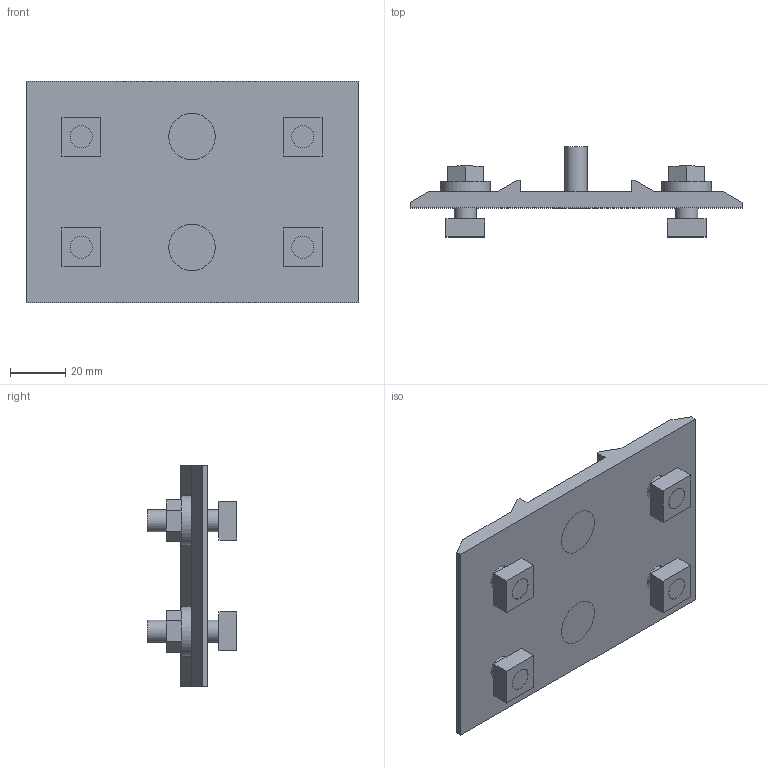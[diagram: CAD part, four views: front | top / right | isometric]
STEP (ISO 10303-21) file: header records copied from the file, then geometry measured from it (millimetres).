
FILE_DESCRIPTION((''),'2;1');
FILE_NAME('C:\Documents and Settings\古川典政\My Documents\Inventor\HP用\MasterData\BRACKET\M8\ABJF-4080-8.stp','2008-07-31T10:50:16',(''),(''),'Autodesk Inventor 2008','Autodesk Inventor 2008','');
FILE_SCHEMA(('CONFIG_CONTROL_DESIGN'));
Length unit declared in the file: millimetre
Products named in the file (12): ABJF-4080-8; ABJF-4080-81; ABJF-4080-82; ABJF-4080-83; ABJF-4080-84; ABJF-4080-85; ABJF-4080-86; ABJF-4080-87; ABJF-4080-88; ABJF-4080-89; ABJF-4080-810; ABJF-4080-811
Assembly tree (11 placements, depth 2):
  ABJF-4080-8
    ABJF-4080-81
    ABJF-4080-82
    ABJF-4080-83
    ABJF-4080-84
    ABJF-4080-85
    ABJF-4080-86
    ABJF-4080-87
    ABJF-4080-88
    ABJF-4080-89
    ABJF-4080-810
    ABJF-4080-811
Bounding box: 120 x 32.5 x 80 mm (x, y, z)
Volume: 72170.6 mm3; surface area: 33540.5 mm2
Topology: 11 solids, 11 shells, 116 faces, 256 edges, 174 vertices
Faces by surface type: plane 88, cylinder 16, bspline 10, cone 2
Full cylindrical faces by diameter (mm): 8 x6, 8.4 x4, 9 x2, 18 x4
Entity records: 3429 total; most frequent: CARTESIAN_POINT 683, DIRECTION 524, ORIENTED_EDGE 428, EDGE_CURVE 214, AXIS2_PLACEMENT_3D 181, EDGE_LOOP 176, VECTOR 162, LINE 162
